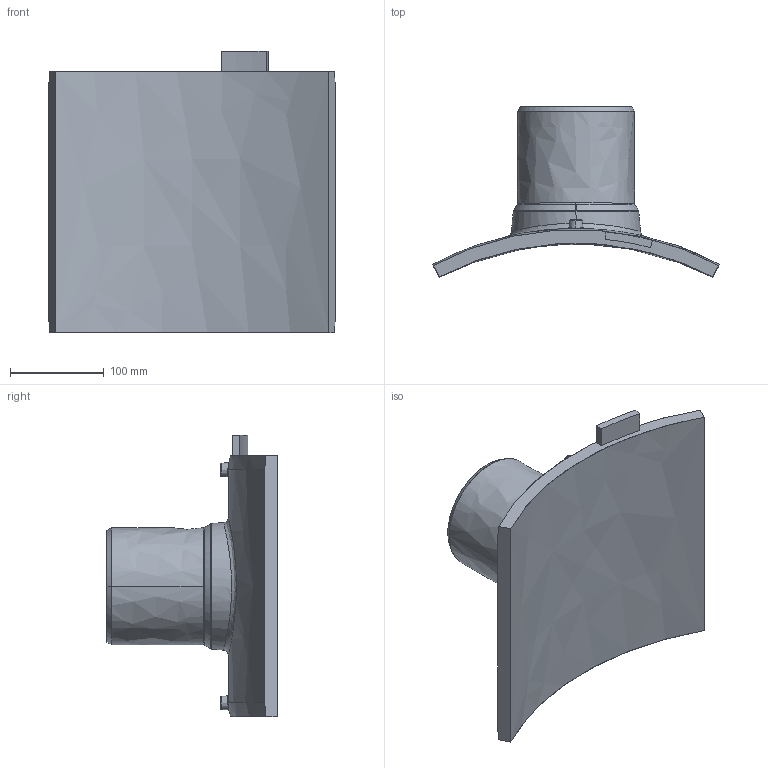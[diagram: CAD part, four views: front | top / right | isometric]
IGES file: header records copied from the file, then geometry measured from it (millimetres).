
Start section:  PTC IGES file: sa-uni_d630_125_01.igs
Global section: file name: sa-uni_d630_125_01.igs; native system: Pro/ENGINEER by Parametric Technology Corporation; preprocessor: 2011490; author: MikulicP; organization: Unknown; date: 20170206.144528; units: millimetre
Bounding box: 305.76 x 181.85 x 301 mm (x, y, z)
Surface area: 295308.3 mm2 (no closed solid volume)
Topology: 0 solids, 0 shells, 200 faces, 984 edges, 984 vertices
Faces by surface type: bspline 200
